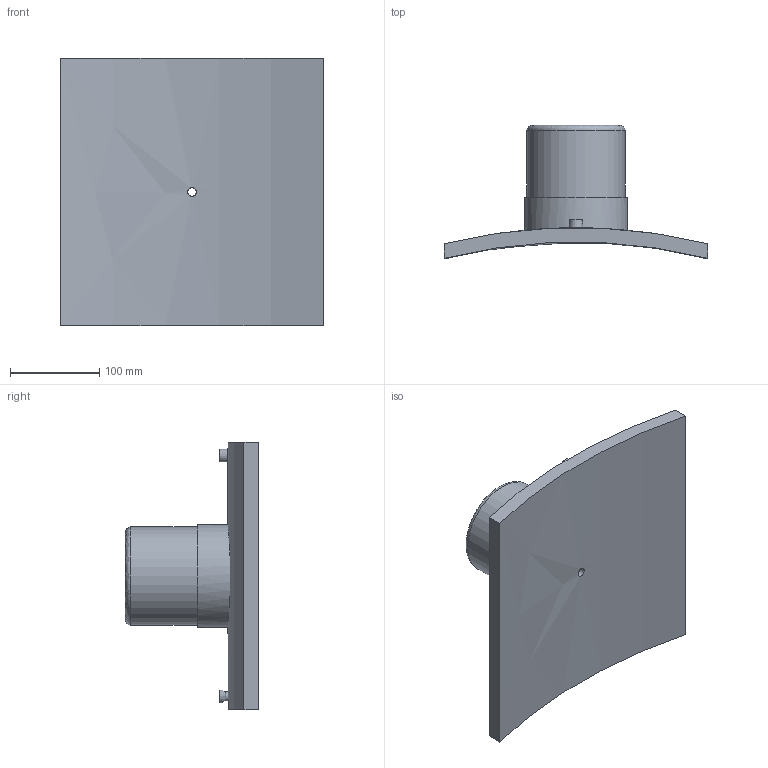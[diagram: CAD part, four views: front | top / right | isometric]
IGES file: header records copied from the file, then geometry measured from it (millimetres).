
Global section: file name: 4958031200110T.ipt; native system: Autodesk Inventor 2019; preprocessor: unknown; author: KIM; date: 20210225.095003; units: millimetre
Bounding box: 295 x 149.41 x 300 mm (x, y, z)
Volume: 1864642.1 mm3; surface area: 276628.7 mm2
Topology: 2 solids, 2 shells, 28 faces, 52 edges, 36 vertices
Faces by surface type: plane 12, revolution 7, cylinder 7, cone 2
Full cylindrical faces by diameter (mm): 4 x2, 16 x1, 110 x1, 115.5 x1
